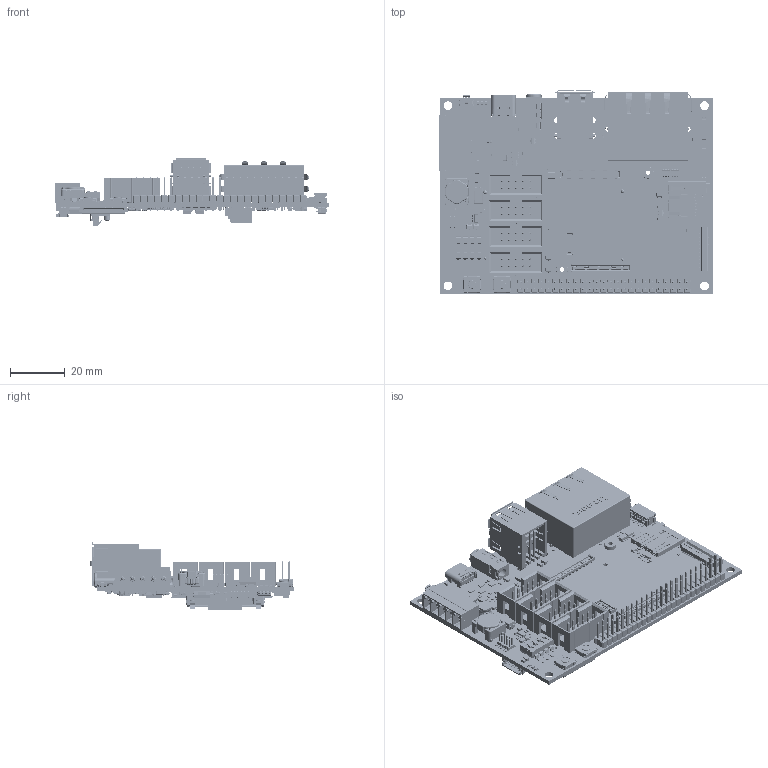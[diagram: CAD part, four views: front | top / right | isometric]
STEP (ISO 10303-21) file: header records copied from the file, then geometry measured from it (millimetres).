
FILE_DESCRIPTION(('Open CASCADE Model'),'2;1');
FILE_NAME('Open CASCADE Shape Model','2021-11-21T21:15:55',('Author'),( 'Open CASCADE'),'Open CASCADE STEP processor 6.8','Open CASCADE 6.8' ,'Unknown');
FILE_SCHEMA(('AUTOMOTIVE_DESIGN { 1 0 10303 214 1 1 1 1 }'));
Length unit declared in the file: millimetre
Products named in the file (754): PCB; Board; Open CASCADE STEP translator 6.8 2.1.1; R102; 6202221312; Mid_Body; Terminal; Open_CASCADE_STEP_translator_6.8_2.2.1; Mark; J1; DF40C-100DS; J2; R60; 6202221072; J23; DF13A-6P-1.25H; DF13A-6P-1.25H_5c_X_5c_8A\X2\00C8\X0\_5c_X_5c_97\X2\00AA\X0\; C47; 6202221392; Open_CASCADE_STEP_translator_6.8_3.1.1; Open_CASCADE_STEP_translator_6.8_3.1.2; Open_CASCADE_STEP_translator_6.8_3.2.1; R101; Q9; 6586050816; Body; Leader; Q4; R100; 6202221472; Q8; 6586054816; Q7; J22; FH41-28S-0.5SH; R99; C106; 6202220912; R98; R97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
Assembly tree (1263 placements, depth 8):
  PCB
    Board
      Open CASCADE STEP translator 6.8 2.1.1
    R102
      6202221312
        Mid_Body
        Terminal  x2
          Open_CASCADE_STEP_translator_6.8_2.2.1
        Mark
    J1
      DF40C-100DS
    J2
      DF40C-100DS
    R60
      6202221072
        Mid_Body
        Terminal  x2
          Open_CASCADE_STEP_translator_6.8_2.2.1
        Mark
    J23
      DF13A-6P-1.25H
        DF13A-6P-1.25H_5c_X_5c_8A\X2\00C8\X0\_5c_X_5c_97\X2\00AA\X0\
    C47
      6202221392
        Terminal
          Open_CASCADE_STEP_translator_6.8_3.1.1
          Open_CASCADE_STEP_translator_6.8_3.1.2
        Mid_Body
          Open_CASCADE_STEP_translator_6.8_3.2.1
    R101
      6202221312
        Mid_Body
        Terminal  x2
          Open_CASCADE_STEP_translator_6.8_2.2.1
        Mark
    Q9
      6586050816
        Body
          Open_CASCADE_STEP_translator_6.8_3.1.1
        Leader  x3
    Q4
      6586050816
        Body
          Open_CASCADE_STEP_translator_6.8_3.1.1
        Leader  x3
    R100
      6202221472
        Mid_Body
        Terminal  x2
          Open_CASCADE_STEP_translator_6.8_2.2.1
        Mark
    Q8
      6586054816
        Body
          Open_CASCADE_STEP_translator_6.8_3.1.1
        Leader  x3
    Q7
      6586054816
        Body
          Open_CASCADE_STEP_translator_6.8_3.1.1
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Bounding box: 100.17 x 74.76 x 24.59 mm (x, y, z)
Volume: 31857.8 mm3; surface area: 54806.6 mm2
Topology: 1511 solids, 1558 shells, 45306 faces, 114332 edges, 71775 vertices
Faces by surface type: plane 31724, cylinder 9838, bspline 1428, sphere 1327, torus 599, extrusion 257, cone 127, revolution 6
Full cylindrical faces by diameter (mm): 0.256 x1, 0.3 x1, 0.338 x1, 0.342 x2, 0.381 x1, 0.5 x1, 0.562 x2, 0.6 x2, 0.75 x4, 0.9 x20, 0.95 x8, 1 x90, 1.02 x8, 1.05 x1, 1.1 x2, 1.4 x5, 1.55 x1, 1.6 x1, 1.623 x2, 1.7 x2, 1.9 x5, 2.3 x4, 2.8 x2, 3 x4, 3.2 x4, 4.35 x2
Entity records: 847236 total; most frequent: CARTESIAN_POINT 180878, ORIENTED_EDGE 112669, DIRECTION 105254, EDGE_CURVE 56425, VECTOR 41286, LINE 41045, VERTEX_POINT 36480, AXIS2_PLACEMENT_3D 31981
